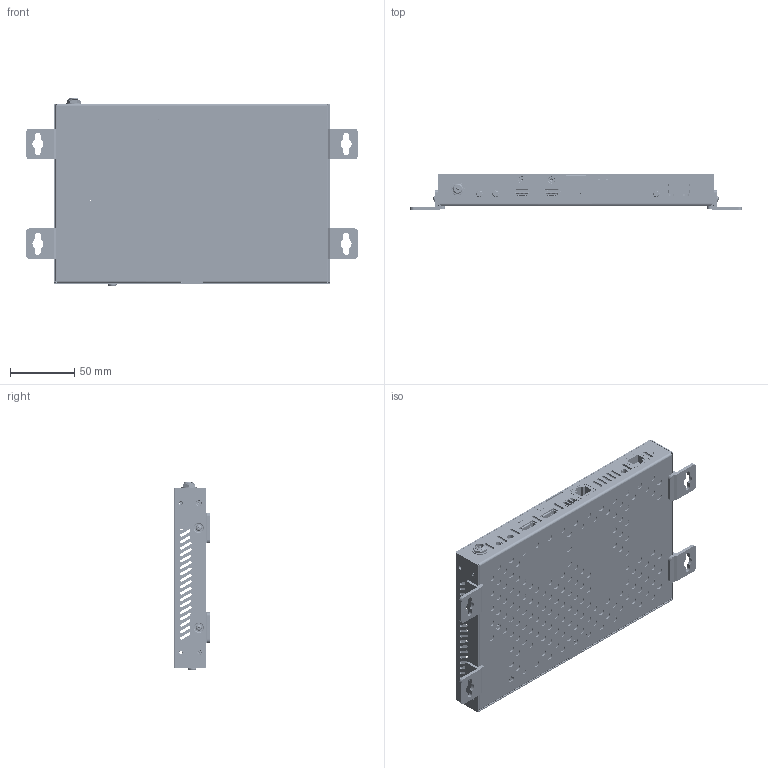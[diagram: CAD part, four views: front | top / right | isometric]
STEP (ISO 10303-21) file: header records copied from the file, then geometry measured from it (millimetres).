
FILE_DESCRIPTION((''),'2;1');
FILE_NAME('00-IP6000AS-000_ASM_14_ASM_1_AS_ASM','2023-05-08T',('Xutangren'),(''),'PRO/ENGINEER BY PARAMETRIC TECHNOLOGY CORPORATION, 2010280','PRO/ENGINEER BY PARAMETRIC TECHNOLOGY CORPORATION, 2010280','');
FILE_SCHEMA(('AUTOMOTIVE_DESIGN_CC2 { 1 2 10303 214 -1 1 5 2 }'));
Products named in the file (38): IP6000AS-000-COVER_48_1; IP6000AS-000-COVER_ASM_1_ASM_1__ASM; IPE6000AS-000-BASE_56_1; SO4_3_5M3_L5_4_1; IP6000AS-000-BASE_ASM_12_ASM_1__ASM; IP6000AS-000-PCB_28_1; MANIFOLD_SOLID_BREP_72739_1; MANIFOLD_SOLID_BREP_73313_1; MANIFOLD_SOLID_BREP_73821_1; DC_H0100DC001200_1_ASM_1_ASM_ASM; DC_GASKET_1_1; DC_NUT_1_1; DC_SCREW_ASM_1_ASM_1_ASM_ASM; IR_H0400PJ301100_1_1; RJ45_H060097428800_1_1; USB_H1200000VD000_1_1; LED_TIEPIAN_1_1; MANIFOLD_SOLID_BREP_89081_1; MANIFOLD_SOLID_BREP_89511_1; MANIFOLD_SOLID_BREP_89941_1; MANIFOLD_SOLID_BREP_90371_1; MANIFOLD_SOLID_BREP_90801_1; MANIFOLD_SOLID_BREP_91235_1; MANIFOLD_SOLID_BREP_91669_1; RJ45_H0600AQXN3F13_1_ASM_1_ASM_ASM; LIANJIEQI-MUTOU_2_1; USB_H1206000HD000_1_1; KFC_M0800GB169700_1_1; KFC_J0201V0730600_1_1; PHOENIX3-3_5_H140310FHD000_1_1; HDMI_H000019PFS000_2_1; IP6000AS-000-PCBA_ASM_43_ASM_1__ASM; XIAO-PCB_1_1; M0400PA015000_1; M1400M25L0500_M2_5_L5_BLACK_1; M1400M25L5000_M2_5_L5_BLACK_1; M140000M3L503_M3_L5_BLACK; 00-IP6000AS-000_ASM_14_ASM_1_AS_ASM
Assembly tree (64 placements, depth 5):
  00-IP6000AS-000_ASM_14_ASM_1_AS_ASM
    IP6000AS-000-COVER_ASM_1_ASM_1__ASM
      IP6000AS-000-COVER_48_1
    IP6000AS-000-BASE_ASM_12_ASM_1__ASM
      IPE6000AS-000-BASE_56_1
      SO4_3_5M3_L5_4_1  x5
    IP6000AS-000-PCBA_ASM_43_ASM_1__ASM
      IP6000AS-000-PCB_28_1
      DC_SCREW_ASM_1_ASM_1_ASM_ASM
        DC_H0100DC001200_1_ASM_1_ASM_ASM
          MANIFOLD_SOLID_BREP_72739_1
          MANIFOLD_SOLID_BREP_73313_1
          MANIFOLD_SOLID_BREP_73821_1
        DC_GASKET_1_1
        DC_NUT_1_1
      IR_H0400PJ301100_1_1  x3
      RJ45_H060097428800_1_1
      USB_H1200000VD000_1_1
      LED_TIEPIAN_1_1  x8
      RJ45_H0600AQXN3F13_1_ASM_1_ASM_ASM
        MANIFOLD_SOLID_BREP_89081_1
        MANIFOLD_SOLID_BREP_89511_1
        MANIFOLD_SOLID_BREP_89941_1
        MANIFOLD_SOLID_BREP_90371_1
        MANIFOLD_SOLID_BREP_90801_1
        MANIFOLD_SOLID_BREP_91235_1
        MANIFOLD_SOLID_BREP_91669_1
      LIANJIEQI-MUTOU_2_1  x2
      USB_H1206000HD000_1_1  x2
      KFC_M0800GB169700_1_1
      KFC_J0201V0730600_1_1
      PHOENIX3-3_5_H140310FHD000_1_1
      HDMI_H000019PFS000_2_1  x2
    XIAO-PCB_1_1
    M0400PA015000_1  x4
    M1400M25L0500_M2_5_L5_BLACK_1  x5
    M1400M25L5000_M2_5_L5_BLACK_1  x4
    M140000M3L503_M3_L5_BLACK  x2
Bounding box: 258 x 28.5 x 145.9 mm (x, y, z)
Volume: 143031.3 mm3; surface area: 239940.5 mm2
Topology: 58 solids, 63 shells, 6234 faces, 17663 edges, 11590 vertices
Faces by surface type: plane 3503, cylinder 2230, bspline 227, cone 161, torus 70, extrusion 29, sphere 10, revolution 4
Entity records: 162848 total; most frequent: CARTESIAN_POINT 38703, ORIENTED_EDGE 22828, DIRECTION 22809, EDGE_CURVE 11416, AXIS2_PLACEMENT_3D 7707, VERTEX_POINT 7483, VECTOR 7391, LINE 7362
